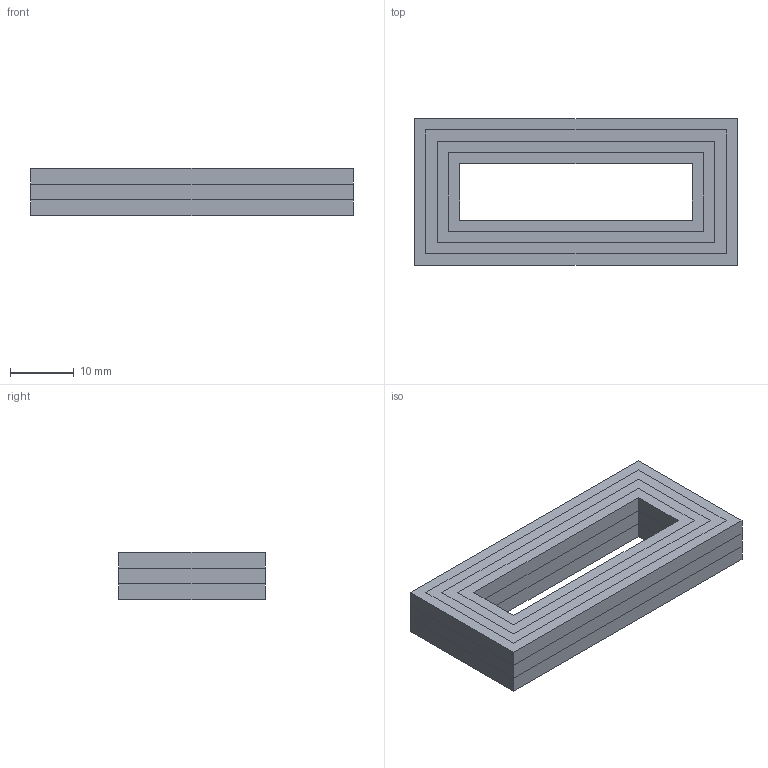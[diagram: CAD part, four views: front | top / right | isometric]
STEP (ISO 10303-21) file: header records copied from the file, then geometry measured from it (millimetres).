
FILE_DESCRIPTION(('Open CASCADE Model'),'2;1');
FILE_NAME('Open CASCADE Shape Model','1970-01-01T00:00:00',('Author'),( 'Open CASCADE'),'Open CASCADE STEP processor 7.7','Open CASCADE 7.7' ,'Unknown');
FILE_SCHEMA(('AUTOMOTIVE_DESIGN { 1 0 10303 214 1 1 1 1 }'));
Length unit declared in the file: millimetre
Products named in the file (13): Open CASCADE STEP translator 7.7 1; Open CASCADE STEP translator 7.7 1.1; Open CASCADE STEP translator 7.7 1.2; Open CASCADE STEP translator 7.7 1.3; Open CASCADE STEP translator 7.7 1.4; Open CASCADE STEP translator 7.7 1.5; Open CASCADE STEP translator 7.7 1.6; Open CASCADE STEP translator 7.7 1.7; Open CASCADE STEP translator 7.7 1.8; Open CASCADE STEP translator 7.7 1.9; Open CASCADE STEP translator 7.7 1.10; Open CASCADE STEP translator 7.7 1.11; Open CASCADE STEP translator 7.7 1.12
Assembly tree (12 placements, depth 2):
  Open CASCADE STEP translator 7.7 1
    Open CASCADE STEP translator 7.7 1.1
    Open CASCADE STEP translator 7.7 1.2
    Open CASCADE STEP translator 7.7 1.3
    Open CASCADE STEP translator 7.7 1.4
    Open CASCADE STEP translator 7.7 1.5
    Open CASCADE STEP translator 7.7 1.6
    Open CASCADE STEP translator 7.7 1.7
    Open CASCADE STEP translator 7.7 1.8
    Open CASCADE STEP translator 7.7 1.9
    Open CASCADE STEP translator 7.7 1.10
    Open CASCADE STEP translator 7.7 1.11
    Open CASCADE STEP translator 7.7 1.12
Bounding box: 50.5 x 22.91 x 7.44 mm (x, y, z)
Volume: 6224.8 mm3; surface area: 12079 mm2
Topology: 12 solids, 12 shells, 120 faces, 288 edges, 192 vertices
Faces by surface type: plane 120
Entity records: 7216 total; most frequent: CARTESIAN_POINT 1381, DIRECTION 938, LINE 672, VECTOR 672, ORIENTED_EDGE 576, PCURVE 576, DEFINITIONAL_REPRESENTATION 576, EDGE_CURVE 288
